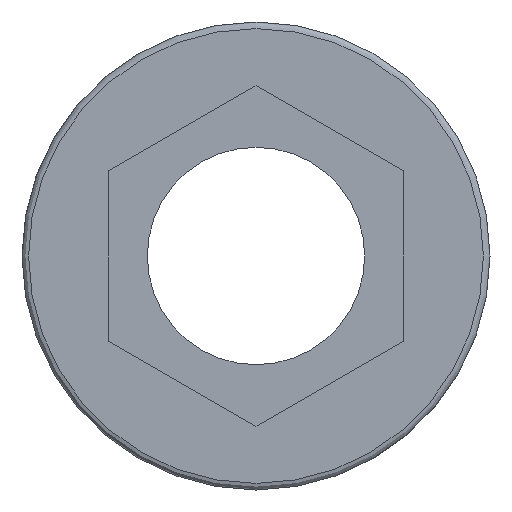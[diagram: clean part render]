
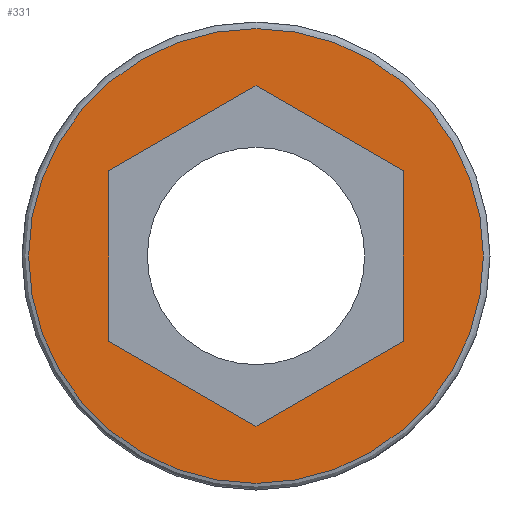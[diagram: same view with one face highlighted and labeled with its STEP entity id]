
A CAD part, front view. The second image highlights one B-rep face of the part: STEP entity #331.
In plain terms, the highlighted planar face has unit normal (0, -1, 0).
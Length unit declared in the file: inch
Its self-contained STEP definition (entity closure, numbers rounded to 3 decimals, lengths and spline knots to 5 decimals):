
#17=FACE_BOUND('',#108,.T.);
#22=PLANE('',#378);
#34=LINE('',#550,#57);
#35=LINE('',#552,#58);
#36=LINE('',#554,#59);
#37=LINE('',#556,#60);
#38=LINE('',#558,#61);
#39=LINE('',#559,#62);
#57=VECTOR('',#446,0.3937);
#58=VECTOR('',#447,0.3937);
#59=VECTOR('',#448,0.3937);
#60=VECTOR('',#449,0.3937);
#61=VECTOR('',#450,0.3937);
#62=VECTOR('',#451,0.3937);
#87=FACE_OUTER_BOUND('',#107,.T.);
#107=EDGE_LOOP('',(#253,#254));
#108=EDGE_LOOP('',(#255,#256,#257,#258,#259,#260));
#132=CIRCLE('',#370,0.2405);
#136=CIRCLE('',#374,0.2405);
#155=VERTEX_POINT('',#532);
#156=VERTEX_POINT('',#533);
#161=VERTEX_POINT('',#548);
#162=VERTEX_POINT('',#549);
#163=VERTEX_POINT('',#551);
#164=VERTEX_POINT('',#553);
#165=VERTEX_POINT('',#555);
#166=VERTEX_POINT('',#557);
#190=EDGE_CURVE('',#155,#156,#132,.T.);
#194=EDGE_CURVE('',#156,#155,#136,.T.);
#198=EDGE_CURVE('',#161,#162,#34,.T.);
#199=EDGE_CURVE('',#162,#163,#35,.T.);
#200=EDGE_CURVE('',#163,#164,#36,.T.);
#201=EDGE_CURVE('',#164,#165,#37,.T.);
#202=EDGE_CURVE('',#165,#166,#38,.T.);
#203=EDGE_CURVE('',#166,#161,#39,.T.);
#253=ORIENTED_EDGE('',*,*,#190,.F.);
#254=ORIENTED_EDGE('',*,*,#194,.F.);
#255=ORIENTED_EDGE('',*,*,#198,.T.);
#256=ORIENTED_EDGE('',*,*,#199,.T.);
#257=ORIENTED_EDGE('',*,*,#200,.T.);
#258=ORIENTED_EDGE('',*,*,#201,.T.);
#259=ORIENTED_EDGE('',*,*,#202,.T.);
#260=ORIENTED_EDGE('',*,*,#203,.T.);
#331=ADVANCED_FACE('',(#87,#17),#22,.T.);
#370=AXIS2_PLACEMENT_3D('',#534,#427,#428);
#374=AXIS2_PLACEMENT_3D('',#540,#435,#436);
#378=AXIS2_PLACEMENT_3D('',#547,#444,#445);
#427=DIRECTION('center_axis',(0.,1.,0.));
#428=DIRECTION('ref_axis',(0.,0.,1.));
#435=DIRECTION('center_axis',(0.,1.,0.));
#436=DIRECTION('ref_axis',(0.,0.,1.));
#444=DIRECTION('center_axis',(0.,-1.,0.));
#445=DIRECTION('ref_axis',(0.,0.,-1.));
#446=DIRECTION('',(0.866,0.,-0.5));
#447=DIRECTION('',(0.,0.,-1.));
#448=DIRECTION('',(-0.866,0.,-0.5));
#449=DIRECTION('',(-0.866,0.,0.5));
#450=DIRECTION('',(0.,0.,1.));
#451=DIRECTION('',(0.866,0.,0.5));
#532=CARTESIAN_POINT('',(0.,0.,-0.2405));
#533=CARTESIAN_POINT('',(0.,0.,0.2405));
#534=CARTESIAN_POINT('Origin',(0.,0.,0.));
#540=CARTESIAN_POINT('Origin',(0.,0.,0.));
#547=CARTESIAN_POINT('Origin',(0.,0.,-0.115));
#548=CARTESIAN_POINT('',(0.,0.,0.18013));
#549=CARTESIAN_POINT('',(0.156,0.,0.09007));
#550=CARTESIAN_POINT('',(0.0639,0.,0.14324));
#551=CARTESIAN_POINT('',(0.156,0.,-0.09007));
#552=CARTESIAN_POINT('',(0.156,0.,-0.01247));
#553=CARTESIAN_POINT('',(0.,0.,-0.18013));
#554=CARTESIAN_POINT('',(0.0921,0.,-0.12696));
#555=CARTESIAN_POINT('',(-0.156,0.,-0.09007));
#556=CARTESIAN_POINT('',(-0.0141,0.,-0.17199));
#557=CARTESIAN_POINT('',(-0.156,0.,0.09007));
#558=CARTESIAN_POINT('',(-0.156,0.,-0.10253));
#559=CARTESIAN_POINT('',(-0.1419,0.,0.09821));
